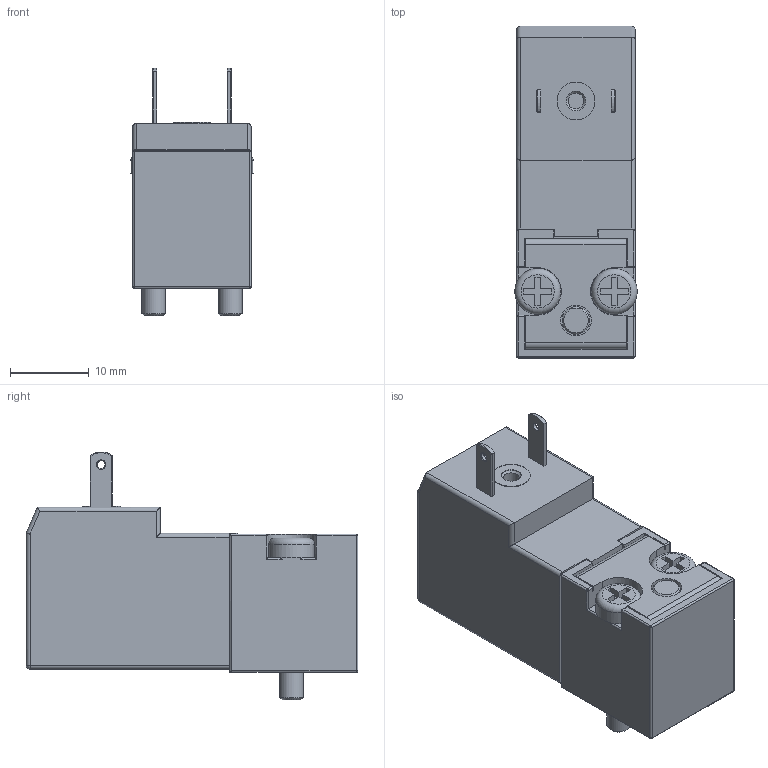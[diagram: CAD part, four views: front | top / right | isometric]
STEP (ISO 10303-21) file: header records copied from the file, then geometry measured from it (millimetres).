
FILE_DESCRIPTION( ( 'STEP AP214' ), '1' );
FILE_NAME( 'p:/temp/worker_134/temp/exporttempdir_3432_162_BKyP9/format_0/N331_0A.stp', '2021-02-05T06:01:34', ( 'License CC BY-ND 4.0' ), ( 'CADENAS' ), ' ', 'PARTsolutions', ' ' );
FILE_SCHEMA( ( 'AUTOMOTIVE_DESIGN { 1 0 10303 214 1 1 1 1 }' ) );
Length unit declared in the file: millimetre
Products named in the file (4): N331/0A; _N331/ 0A -dummy; _305/15NC 3/2; _305/15F
Assembly tree (3 placements, depth 2):
  N331/0A
    _N331/ 0A -dummy
    _305/15NC 3/2
    _305/15F
Bounding box: 15.49 x 42 x 31.39 mm (x, y, z)
Volume: 11648.3 mm3; surface area: 4345.6 mm2
Topology: 2 solids, 2 shells, 181 faces, 443 edges, 270 vertices
Faces by surface type: plane 100, cylinder 61, sphere 10, torus 6, cone 4
Full cylindrical faces by diameter (mm): 1 x2, 1.9 x2, 2.013 x1, 2.4 x1, 2.5 x1, 3 x2, 3.5 x1, 3.9 x1, 4.8 x1, 5.8 x2
Entity records: 6636 total; most frequent: CARTESIAN_POINT 962, DIRECTION 878, ORIENTED_EDGE 814, EDGE_CURVE 407, AXIS2_PLACEMENT_3D 294, LINE 290, VECTOR 290, VERTEX_POINT 265
